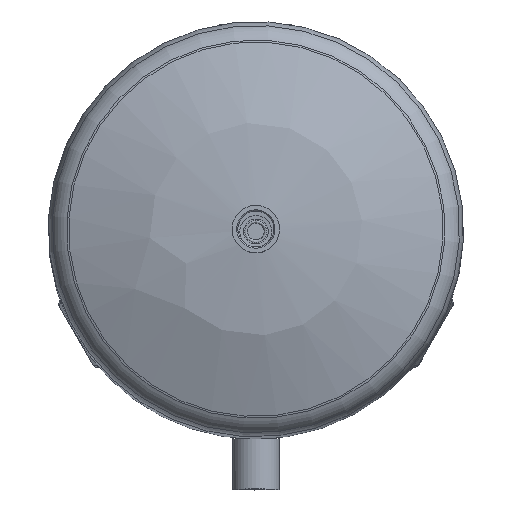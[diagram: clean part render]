
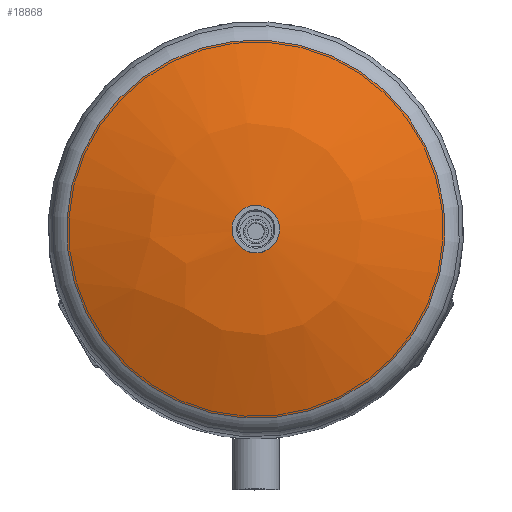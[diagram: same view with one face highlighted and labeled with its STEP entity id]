
A CAD part, top view. The second image highlights one B-rep face of the part: STEP entity #18868.
In plain terms, the highlighted free-form (B-spline) face has degree [2, 2] with [3, 9] control points.
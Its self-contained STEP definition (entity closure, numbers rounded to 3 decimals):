
#18756=CARTESIAN_POINT('',(-14.894,2.063,1154.698));
#18757=VERTEX_POINT('',#18756);
#18758=CARTESIAN_POINT('',(0.,9.45,1154.698));
#18759=DIRECTION('',(0.,0.,-1.));
#18760=DIRECTION('',(0.896,0.444,0.));
#18761=AXIS2_PLACEMENT_3D('',#18758,#18759,#18760);
#18762=CIRCLE('',#18761,16.625);
#18763=EDGE_CURVE('',#18757,#18757,#18762,.T.);
#18812=CARTESIAN_POINT('',(-142.827,-61.387,1124.364));
#18813=VERTEX_POINT('',#18812);
#18814=CARTESIAN_POINT('',(0.,9.45,1124.364));
#18815=DIRECTION('',(0.,0.,1.));
#18816=DIRECTION('',(-0.896,-0.444,0.));
#18817=AXIS2_PLACEMENT_3D('',#18814,#18815,#18816);
#18818=CIRCLE('',#18817,159.428);
#18819=EDGE_CURVE('',#18813,#18813,#18818,.T.);
#18827=CARTESIAN_POINT('',(70.836,-133.377,1124.364));
#18828=CARTESIAN_POINT('',(36.985,-65.124,1158.113));
#18829=CARTESIAN_POINT('',(0.,9.45,1154.335));
#18830=CARTESIAN_POINT('',(-71.991,-204.214,1124.364));
#18831=CARTESIAN_POINT('',(-37.588,-102.109,1158.113));
#18832=CARTESIAN_POINT('',(0.,9.45,1154.335));
#18833=CARTESIAN_POINT('',(-142.827,-61.387,1124.364));
#18834=CARTESIAN_POINT('',(-74.574,-27.536,1158.113));
#18835=CARTESIAN_POINT('',(0.,9.45,1154.335));
#18836=CARTESIAN_POINT('',(-213.663,81.44,1124.364));
#18837=CARTESIAN_POINT('',(-111.559,47.038,1158.113));
#18838=CARTESIAN_POINT('',(0.,9.45,1154.335));
#18839=CARTESIAN_POINT('',(-70.836,152.277,1124.364));
#18840=CARTESIAN_POINT('',(-36.985,84.023,1158.113));
#18841=CARTESIAN_POINT('',(0.,9.45,1154.335));
#18842=CARTESIAN_POINT('',(71.991,223.113,1124.364));
#18843=CARTESIAN_POINT('',(37.588,121.009,1158.113));
#18844=CARTESIAN_POINT('',(0.,9.45,1154.335));
#18845=CARTESIAN_POINT('',(142.827,80.286,1124.364));
#18846=CARTESIAN_POINT('',(74.574,46.435,1158.113));
#18847=CARTESIAN_POINT('',(0.,9.45,1154.335));
#18848=CARTESIAN_POINT('',(213.663,-62.541,1124.364));
#18849=CARTESIAN_POINT('',(111.559,-28.138,1158.113));
#18850=CARTESIAN_POINT('',(0.,9.45,1154.335));
#18851=CARTESIAN_POINT('',(70.836,-133.377,1124.364));
#18852=CARTESIAN_POINT('',(36.985,-65.124,1158.113));
#18853=CARTESIAN_POINT('',(0.,9.45,1154.335));
#18861=(BOUNDED_SURFACE()B_SPLINE_SURFACE(2,2,((#18827,#18830,#18833,#18836,#18839,#18842,#18845,#18848,#18851),(#18828,#18831,#18834,#18837,#18840,#18843,#18846,#18849,#18852),(#18829,#18832,#18835,#18838,#18841,#18844,#18847,#18850,#18853)),.UNSPECIFIED.,.F.,.T.,.U.)B_SPLINE_SURFACE_WITH_KNOTS((3,3),(3,2,2,2,3),(1.154,1.616),(0.0,1.571,3.142,4.712,6.283),.UNSPECIFIED.)GEOMETRIC_REPRESENTATION_ITEM()RATIONAL_B_SPLINE_SURFACE(((1.0,0.707,1.0,0.707,1.0,0.707,1.0,0.707,1.0),(0.973,0.688,0.973,0.688,0.973,0.688,0.973,0.688,0.973),(1.0,0.707,1.0,0.707,1.0,0.707,1.0,0.707,1.0)))REPRESENTATION_ITEM('')SURFACE());
#18862=ORIENTED_EDGE('',*,*,#18763,.T.);
#18863=EDGE_LOOP('',(#18862));
#18864=FACE_OUTER_BOUND('',#18863,.T.);
#18865=ORIENTED_EDGE('',*,*,#18819,.T.);
#18866=EDGE_LOOP('',(#18865));
#18867=FACE_BOUND('',#18866,.T.);
#18868=ADVANCED_FACE('',(#18864,#18867),#18861,.T.);
